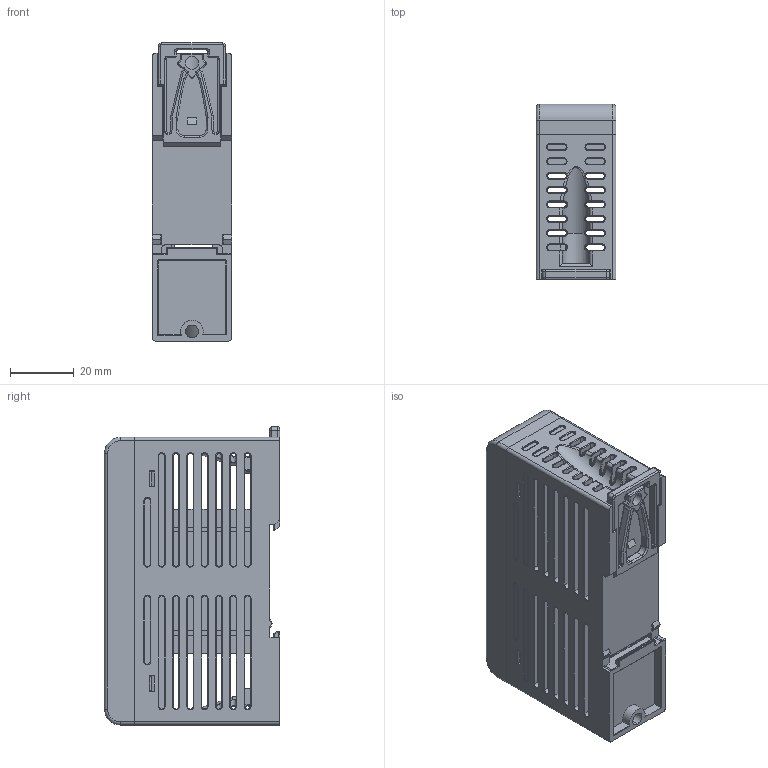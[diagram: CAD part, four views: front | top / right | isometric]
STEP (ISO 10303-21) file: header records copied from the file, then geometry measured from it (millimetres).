
FILE_DESCRIPTION((''),'2;1');
FILE_NAME('B1-CM_ASM','2021-06-09T',('Jacky Chang'),('ME Department of NTUST'),'PRO/ENGINEER BY PARAMETRIC TECHNOLOGY CORPORATION, 2014200','PRO/ENGINEER BY PARAMETRIC TECHNOLOGY CORPORATION, 2014200','');
FILE_SCHEMA(('CONFIG_CONTROL_DESIGN','GEOMETRIC_VALIDATION_PROPERTIES_MIM'));
Products named in the file (5): B1-25E_UP_COVER; B1-CM_DOWN_COVER; JOIN; B1-CM_DOWN_COVER_ASM; B1-CM_ASM
Assembly tree (4 placements, depth 3):
  B1-CM_ASM
    B1-25E_UP_COVER
    B1-CM_DOWN_COVER_ASM
      B1-CM_DOWN_COVER
      JOIN
Bounding box: 25 x 54.8 x 93.25 mm (x, y, z)
Volume: 26307.6 mm3; surface area: 35916 mm2
Topology: 3 solids, 3 shells, 1370 faces, 3658 edges, 2242 vertices
Faces by surface type: plane 592, cylinder 499, torus 164, bspline 92, sphere 23
Entity records: 60307 total; most frequent: CARTESIAN_POINT 15081, ORIENTED_EDGE 7298, DIRECTION 6971, PRESENTATION_STYLE_ASSIGNMENT 3653, STYLED_ITEM 3652, CURVE_STYLE 3649, EDGE_CURVE 3649, AXIS2_PLACEMENT_3D 2385
